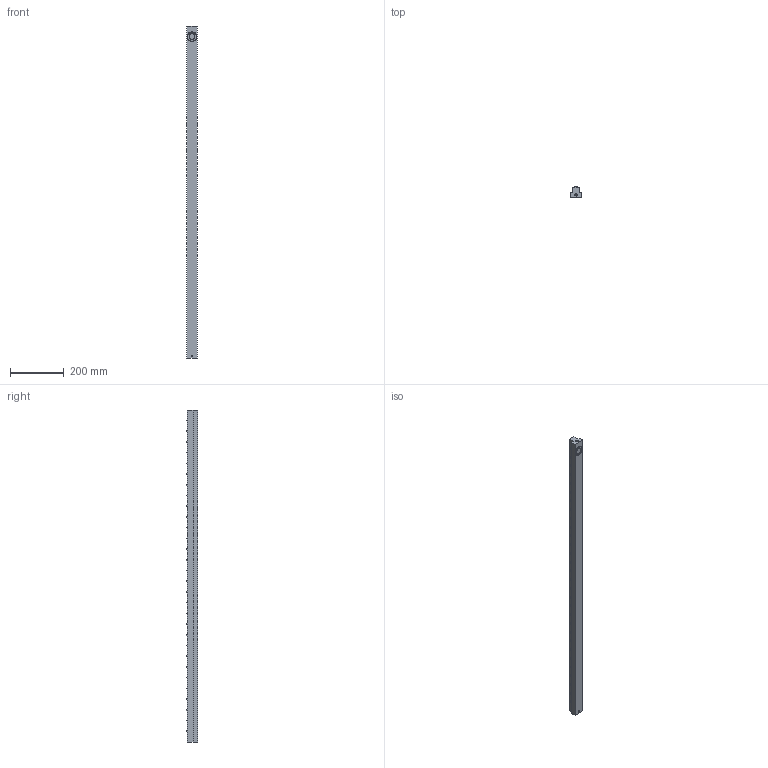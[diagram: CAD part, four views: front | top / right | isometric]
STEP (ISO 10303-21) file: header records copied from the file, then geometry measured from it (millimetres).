
FILE_DESCRIPTION (( 'STEP AP203' ), '1' );
FILE_NAME ('PVL30T-30.STEP', '2016-02-18T04:59:06', ( '' ), ( '' ), 'SwSTEP 2.0', 'SolidWorks 2013', '' );
FILE_SCHEMA (( 'CONFIG_CONTROL_DESIGN' ));
Length unit declared in the file: millimetre
Products named in the file (1): PVL30T-30
Bounding box: 40 x 42 x 1240 mm (x, y, z)
Volume: 1446764.2 mm3; surface area: 218712.7 mm2
Topology: 1 solids, 1 shells, 285 faces, 595 edges, 405 vertices
Faces by surface type: cylinder 142, plane 79, sphere 60, cone 4
Entity records: 7934 total; most frequent: DIRECTION 1579, CARTESIAN_POINT 1284, ORIENTED_EDGE 1186, AXIS2_PLACEMENT_3D 700, EDGE_CURVE 593, CIRCLE 414, VERTEX_POINT 405, EDGE_LOOP 382
